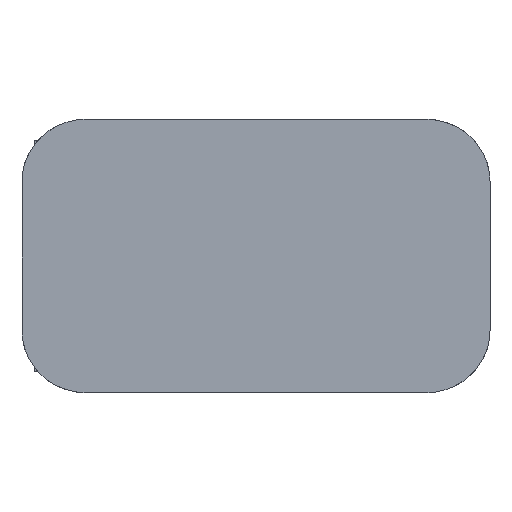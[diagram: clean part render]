
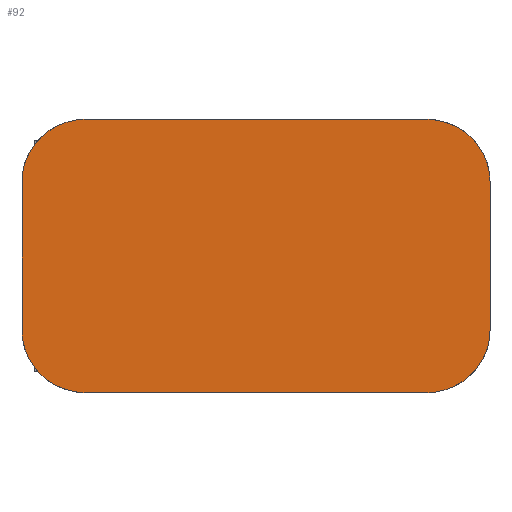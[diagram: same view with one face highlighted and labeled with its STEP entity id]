
A CAD part, top view. The second image highlights one B-rep face of the part: STEP entity #92.
In plain terms, the highlighted planar face has unit normal (0, 0, 1).
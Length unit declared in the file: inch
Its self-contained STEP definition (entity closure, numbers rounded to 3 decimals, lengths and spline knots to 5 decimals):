
#92=ADVANCED_FACE('',(#218),#219,.T.);
#218=FACE_OUTER_BOUND('',#392,.T.);
#219=PLANE('',#393);
#392=EDGE_LOOP('',(#673,#674,#675,#676,#677,#678,#679,#680));
#393=AXIS2_PLACEMENT_3D('',#681,#682,#683);
#673=ORIENTED_EDGE('',*,*,#1050,.F.);
#674=ORIENTED_EDGE('',*,*,#1084,.F.);
#675=ORIENTED_EDGE('',*,*,#1066,.F.);
#676=ORIENTED_EDGE('',*,*,#1085,.F.);
#677=ORIENTED_EDGE('',*,*,#1086,.F.);
#678=ORIENTED_EDGE('',*,*,#1087,.F.);
#679=ORIENTED_EDGE('',*,*,#1088,.F.);
#680=ORIENTED_EDGE('',*,*,#1089,.F.);
#681=CARTESIAN_POINT('',(1.07817,0.9342,0.075));
#682=DIRECTION('',(0.0,0.0,1.0));
#683=DIRECTION('',(1.0,0.0,0.0));
#1050=EDGE_CURVE('',#1258,#1259,#1260,.T.);
#1066=EDGE_CURVE('',#1287,#1288,#1289,.T.);
#1084=EDGE_CURVE('',#1288,#1258,#1317,.T.);
#1085=EDGE_CURVE('',#1318,#1287,#1319,.T.);
#1086=EDGE_CURVE('',#1320,#1318,#1321,.T.);
#1087=EDGE_CURVE('',#1322,#1320,#1323,.T.);
#1088=EDGE_CURVE('',#1324,#1322,#1325,.T.);
#1089=EDGE_CURVE('',#1259,#1324,#1326,.T.);
#1258=VERTEX_POINT('',#1550);
#1259=VERTEX_POINT('',#1551);
#1260=LINE('',#1552,#1553);
#1287=VERTEX_POINT('',#1601);
#1288=VERTEX_POINT('',#1602);
#1289=LINE('',#1603,#1604);
#1317=B_SPLINE_CURVE_WITH_KNOTS('',3,(#1649,#1650,#1651,#1652),.UNSPECIFIED.,.F.,.F.,(4,4),(-1.0,-0.0),.UNSPECIFIED.);
#1318=VERTEX_POINT('',#1653);
#1319=B_SPLINE_CURVE_WITH_KNOTS('',3,(#1654,#1655,#1656,#1657),.UNSPECIFIED.,.F.,.F.,(4,4),(-1.0,-0.0),.UNSPECIFIED.);
#1320=VERTEX_POINT('',#1658);
#1321=LINE('',#1659,#1660);
#1322=VERTEX_POINT('',#1661);
#1323=B_SPLINE_CURVE_WITH_KNOTS('',3,(#1662,#1663,#1664,#1665),.UNSPECIFIED.,.F.,.F.,(4,4),(-1.0,-0.0),.UNSPECIFIED.);
#1324=VERTEX_POINT('',#1666);
#1325=LINE('',#1667,#1668);
#1326=B_SPLINE_CURVE_WITH_KNOTS('',3,(#1669,#1670,#1671,#1672),.UNSPECIFIED.,.F.,.F.,(4,4),(-1.0,-0.0),.UNSPECIFIED.);
#1550=CARTESIAN_POINT('',(2.2813,1.317,0.075));
#1551=CARTESIAN_POINT('',(2.2813,0.55139,0.075));
#1552=CARTESIAN_POINT('',(2.2813,0.55139,0.075));
#1553=VECTOR('',#1984,1.0);
#1601=CARTESIAN_POINT('',(0.20516,1.63735,0.075));
#1602=CARTESIAN_POINT('',(1.95119,1.63735,0.075));
#1603=CARTESIAN_POINT('',(1.95119,1.63735,0.075));
#1604=VECTOR('',#1994,1.0);
#1649=CARTESIAN_POINT('',(1.95119,1.63735,0.075));
#1650=CARTESIAN_POINT('',(2.1335,1.63735,0.075));
#1651=CARTESIAN_POINT('',(2.2813,1.49394,0.075));
#1652=CARTESIAN_POINT('',(2.2813,1.317,0.075));
#1653=CARTESIAN_POINT('',(-0.12496,1.317,0.075));
#1654=CARTESIAN_POINT('',(-0.12496,1.317,0.075));
#1655=CARTESIAN_POINT('',(-0.12496,1.49394,0.075));
#1656=CARTESIAN_POINT('',(0.02283,1.63735,0.075));
#1657=CARTESIAN_POINT('',(0.20516,1.63735,0.075));
#1658=CARTESIAN_POINT('',(-0.12496,0.55139,0.075));
#1659=CARTESIAN_POINT('',(-0.12496,1.317,0.075));
#1660=VECTOR('',#2006,1.0);
#1661=CARTESIAN_POINT('',(0.20516,0.23105,0.075));
#1662=CARTESIAN_POINT('',(0.20516,0.23105,0.075));
#1663=CARTESIAN_POINT('',(0.02283,0.23105,0.075));
#1664=CARTESIAN_POINT('',(-0.12496,0.3745,0.075));
#1665=CARTESIAN_POINT('',(-0.12496,0.55139,0.075));
#1666=CARTESIAN_POINT('',(1.95119,0.23105,0.075));
#1667=CARTESIAN_POINT('',(0.20516,0.23105,0.075));
#1668=VECTOR('',#2007,1.0);
#1669=CARTESIAN_POINT('',(2.2813,0.55139,0.075));
#1670=CARTESIAN_POINT('',(2.2813,0.3745,0.075));
#1671=CARTESIAN_POINT('',(2.1335,0.23105,0.075));
#1672=CARTESIAN_POINT('',(1.95119,0.23105,0.075));
#1984=DIRECTION('',(-0.0,-1.0,-0.0));
#1994=DIRECTION('',(1.0,0.0,0.0));
#2006=DIRECTION('',(0.0,1.0,0.0));
#2007=DIRECTION('',(-1.0,-0.0,-0.0));
